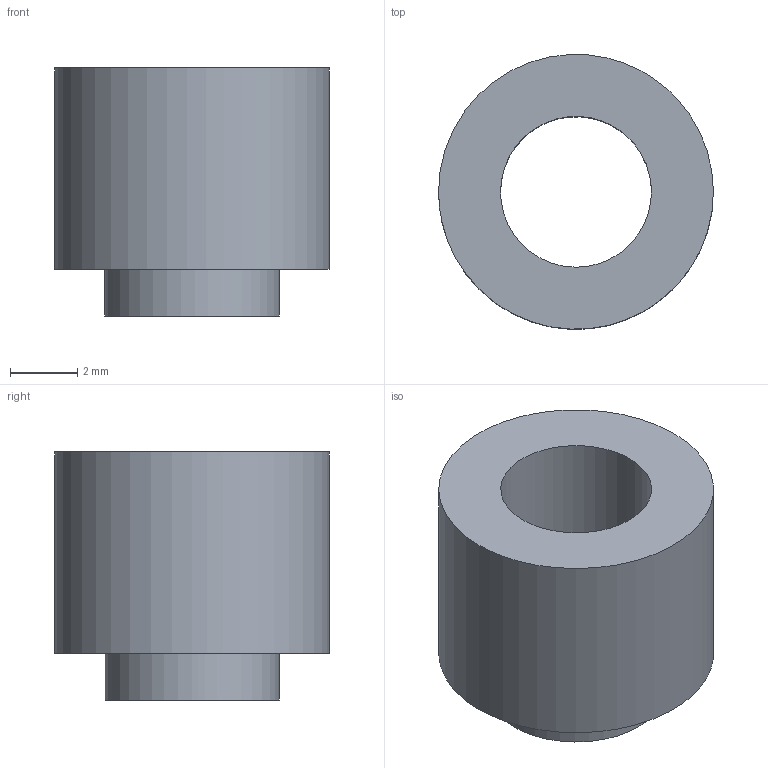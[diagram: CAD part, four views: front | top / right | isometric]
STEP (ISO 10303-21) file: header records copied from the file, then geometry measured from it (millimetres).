
FILE_DESCRIPTION(('FreeCAD Model'),'2;1');
FILE_NAME('Open CASCADE Shape Model','2026-03-20T17:23:19',('Author'),( ''),'Open CASCADE STEP processor 7.8','FreeCAD','Unknown');
FILE_SCHEMA(('AP242_MANAGED_MODEL_BASED_3D_ENGINEERING_MIM_LF. {1 0 10303 442 1 1 4 }'));
Length unit declared in the file: millimetre
Products named in the file (1): 1_transformed
Bounding box: 8.2 x 8.19 x 7.4 mm (x, y, z)
Volume: 230.8 mm3; surface area: 356.6 mm2
Topology: 1 solids, 1 shells, 6 faces, 9 edges, 6 vertices
Faces by surface type: bspline 6
Entity records: 201 total; most frequent: CARTESIAN_POINT 109, ORIENTED_EDGE 18, FACE_BOUND 9, EDGE_LOOP 9, EDGE_CURVE 9, ADVANCED_FACE 6, VERTEX_POINT 6, B_SPLINE_CURVE_WITH_KNOTS 3
